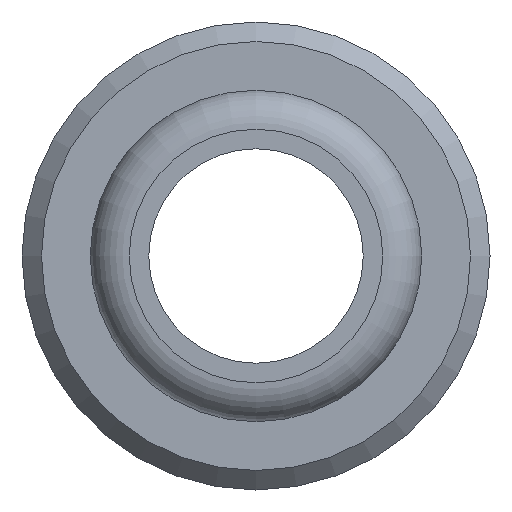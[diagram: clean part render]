
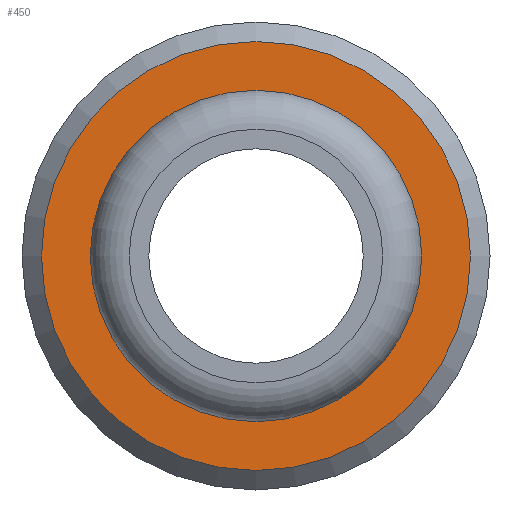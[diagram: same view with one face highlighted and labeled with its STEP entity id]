
A CAD part, front view. The second image highlights one B-rep face of the part: STEP entity #450.
In plain terms, the highlighted planar face has unit normal (0, -1, 0).
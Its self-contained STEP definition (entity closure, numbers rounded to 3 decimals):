
#25=FACE_BOUND('',#67,.T.);
#32=PLANE('',#499);
#40=FACE_OUTER_BOUND('',#66,.T.);
#66=EDGE_LOOP('',(#307));
#67=EDGE_LOOP('',(#308,#309));
#130=CIRCLE('',#496,5.5);
#133=CIRCLE('',#500,4.25);
#134=CIRCLE('',#501,4.25);
#183=VERTEX_POINT('',#749);
#186=VERTEX_POINT('',#757);
#187=VERTEX_POINT('',#758);
#233=EDGE_CURVE('',#183,#183,#130,.T.);
#237=EDGE_CURVE('',#186,#187,#133,.T.);
#238=EDGE_CURVE('',#187,#186,#134,.T.);
#307=ORIENTED_EDGE('',*,*,#233,.F.);
#308=ORIENTED_EDGE('',*,*,#237,.F.);
#309=ORIENTED_EDGE('',*,*,#238,.F.);
#450=ADVANCED_FACE('',(#40,#25),#32,.T.);
#496=AXIS2_PLACEMENT_3D('',#750,#577,#578);
#499=AXIS2_PLACEMENT_3D('',#756,#584,#585);
#500=AXIS2_PLACEMENT_3D('',#759,#586,#587);
#501=AXIS2_PLACEMENT_3D('',#760,#588,#589);
#577=DIRECTION('center_axis',(0.,1.,0.));
#578=DIRECTION('ref_axis',(-1.,0.,0.));
#584=DIRECTION('center_axis',(0.,-1.,0.));
#585=DIRECTION('ref_axis',(0.,0.,-1.));
#586=DIRECTION('center_axis',(0.,-1.,0.));
#587=DIRECTION('ref_axis',(1.,0.,0.));
#588=DIRECTION('center_axis',(0.,-1.,0.));
#589=DIRECTION('ref_axis',(1.,0.,0.));
#749=CARTESIAN_POINT('',(5.5,20.,0.));
#750=CARTESIAN_POINT('Origin',(0.,20.,0.));
#756=CARTESIAN_POINT('Origin',(4.25,20.,0.));
#757=CARTESIAN_POINT('',(4.25,20.,0.));
#758=CARTESIAN_POINT('',(-4.25,20.,0.));
#759=CARTESIAN_POINT('Origin',(0.,20.,0.));
#760=CARTESIAN_POINT('Origin',(0.,20.,0.));
